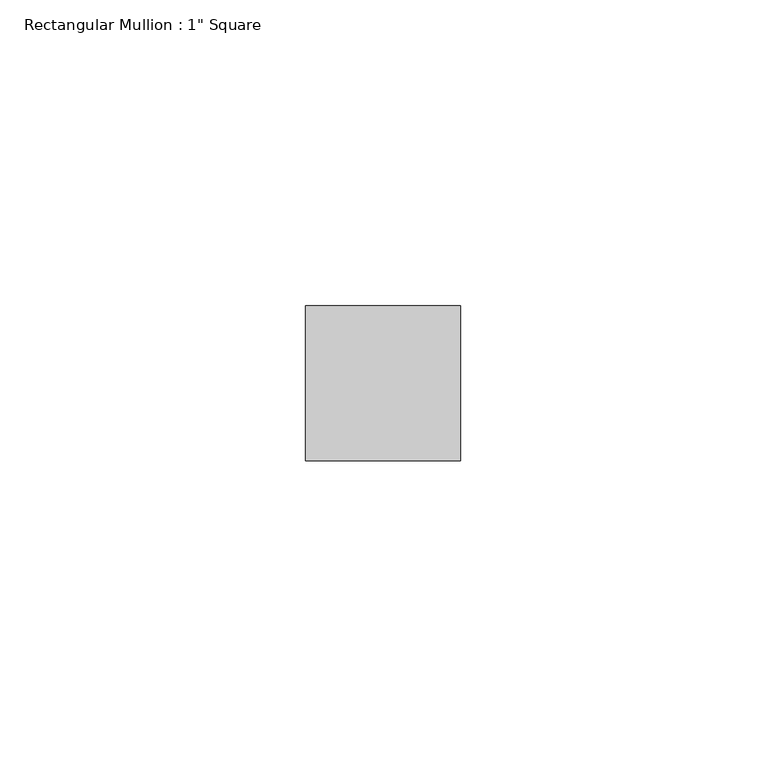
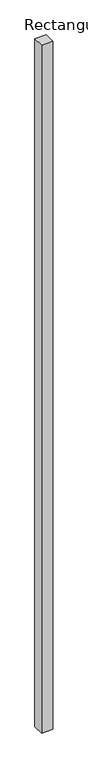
"""IFC4 building model written with IfcOpenShell, lengths in millimetres: member geometry."""

from ifc_helpers import new_model, si_unit, frame, origin, place, context, project, spatial, polyline, outline, extrude, source, transform, mapped, element, save


def member_c4b67a82(model_context):
    return source(origin(), model_context, "Body", "SweptSolid", [
        extrude(outline(polyline([(12.7, 12.7), (12.7, -12.7), (-12.7, -12.7), (-12.7, 12.7), (12.7, 12.7)])), frame((0.0, 0.0, -1616.9668432), z_axis=(0.0, 0.0, 1.0), x_axis=(1.0, 0.0, 0.0)), (0.0, 0.0, 1.0), 1616.9668432),
    ])


if __name__ == "__main__":
    model = new_model("IFC4")
    model_context = context("Model", 3, world=origin())
    ifc_project = project(units=[si_unit("LENGTHUNIT", "METRE", prefix="MILLI")], contexts=[model_context])
    site = spatial("IfcSite", under=ifc_project)
    building = spatial("IfcBuilding", under=site)
    placement = place(None, origin())
    member_shape = member_c4b67a82(model_context)
    element("IfcMember", 1, ObjectType="Rectangular Mullion : 1\" Square", at=placement, inside=building, context=model_context, shape_type="MappedRepresentation", body=[
        mapped(member_shape, transform((0.0, 0.0, 0.0), x_axis=(1.0, 0.0, 0.0), y_axis=(0.0, 1.0, 0.0), z_axis=(0.0, 0.0, 1.0))),
    ])
    save(model, "model.ifc")
